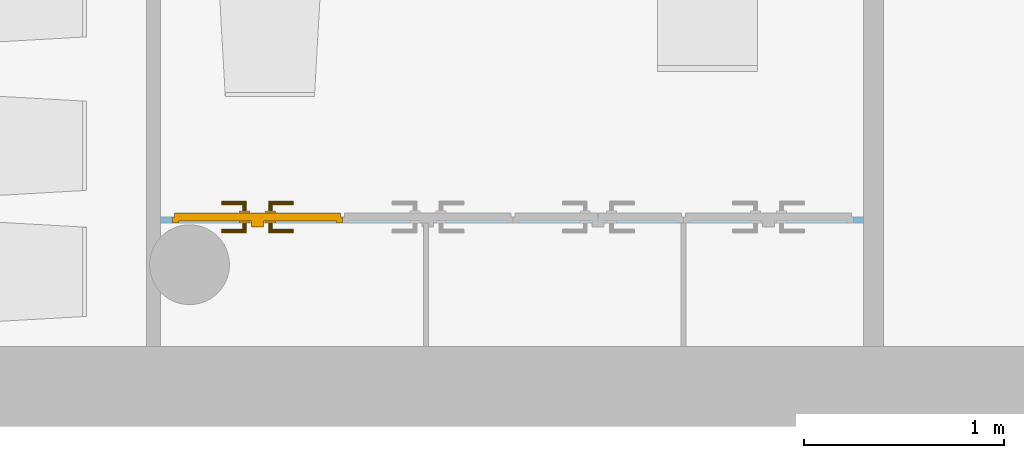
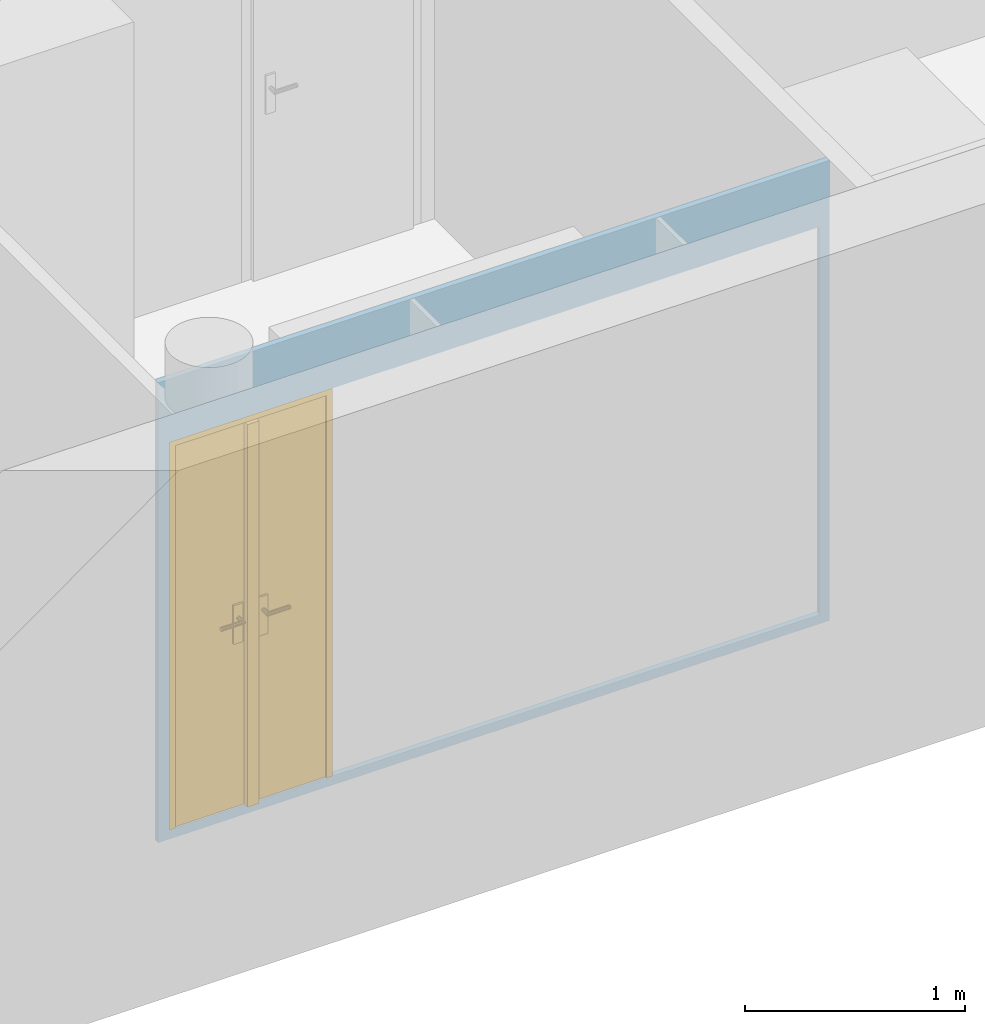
"""IFC4 building model written with IfcOpenShell, lengths in metres."""

from ifc_helpers import new_model, entity, si_unit, converted_unit, derived_unit, frame, frame_2d, origin, origin_with_axes, place, context, subcontext, project, spatial, polyline, rectangle, outline, extrude, faceted_brep, source, transform, mapped, material, layer, layer_set, layer_usage, element, fill, save


model = new_model("IFC4")

# Units and contexts
model_context = context("Model", 3, precision=1e-05, world=origin())
body_context = subcontext(model_context, "Body", "Model", "MODEL_VIEW")
ifc_project = project(units=[si_unit("LENGTHUNIT", "METRE"), si_unit("AREAUNIT", "SQUARE_METRE"), si_unit("VOLUMEUNIT", "CUBIC_METRE"), si_unit("MASSUNIT", "GRAM", prefix="KILO"), converted_unit("PLANEANGLEUNIT", "DEGREE", entity("IfcPlaneAngleMeasure", 0.0174532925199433), si_unit("PLANEANGLEUNIT", "RADIAN"), dimensions=[0, 0, 0, 0, 0, 0, 0]), derived_unit("THERMALTRANSMITTANCEUNIT", [(si_unit("POWERUNIT", "WATT"), 1), (si_unit("THERMODYNAMICTEMPERATUREUNIT", "KELVIN"), -1), (si_unit("LENGTHUNIT", "METRE"), -2)]), derived_unit("VOLUMETRICFLOWRATEUNIT", [(si_unit("LENGTHUNIT", "METRE"), 3), (converted_unit("TIMEUNIT", "hour", entity("IfcTimeMeasure", 3600.0), si_unit("TIMEUNIT", "SECOND"), dimensions=[0, 0, 1, 0, 0, 0, 0]), -1), (si_unit("LENGTHUNIT", "METRE"), -1)])], contexts=[model_context])

# Building, storeys
building_placement = place(None, origin())
building = spatial("IfcBuilding", under=ifc_project, at=building_placement, Name="HABITATGE PLURIFAMILIAR", CompositionType="ELEMENT")
storey_1_placement = place(building_placement, frame((0.0, 0.0, 3.35)))
storey_1 = spatial("IfcBuildingStorey", under=building, at=storey_1_placement, Name="PLANTA  ALTELL", CompositionType="ELEMENT", Elevation=3.35)
storey_2_placement = place(storey_1_placement, origin())
storey_2 = spatial("IfcBuildingStorey", under=storey_1, at=storey_2_placement, Name="NOU", CompositionType="PARTIAL")

# Wall, openings, door
ifc_material = material()
ifc_layer = layer(ifc_material, 0.03)
ifc_layer_set = layer_set([ifc_layer])
ifc_layer_usage = layer_usage(ifc_layer_set, "AXIS2", "POSITIVE", 0.0)
wall_placement = place(storey_2_placement, frame((409.212081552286, 13.8895914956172, -0.05), z_axis=(0.0, 0.0, 1.0), x_axis=(-1.0, 0.0, 0.0)))
wall = element("IfcWall", 1, at=wall_placement, inside=storey_2, material=ifc_layer_usage, Name="Evans PA", context=body_context, shape_type="SweptSolid", body=[
    extrude(rectangle(XDim=3.51996309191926, YDim=0.03, at=frame_2d((1.75998154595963, 0.015), x_axis=(1.0, 0.0))), origin_with_axes(), (0.0, 0.0, 1.0), 2.55),
])
opening_1_placement = place(wall_placement, frame((2.60764991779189, 0.0, 0.05), z_axis=(0.0, 1.0, 0.0), x_axis=(0.0, 0.0, 1.0)))
opening_1 = element("IfcOpeningElement", 2, at=opening_1_placement, cuts=wall, Name="Vano de puerta PA", ObjectType="Opening", context=body_context, shape_type="SweptSolid", body=[
    extrude(outline(polyline([(2.15, 0.852499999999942), (2.15, 0.0), (0.0, 0.0), (0.0, 0.852499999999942), (2.15, 0.852499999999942)])), origin_with_axes(), (0.0, 0.0, 1.0), 0.03),
])
opening_2_placement = place(wall_placement, frame((0.900149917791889, 0.0, 0.05), z_axis=(0.0, 1.0, 0.0), x_axis=(0.0, 0.0, 1.0)))
element("IfcOpeningElement", 3, at=opening_2_placement, cuts=wall, Name="Vano de puerta PA", ObjectType="Opening", context=body_context, shape_type="SweptSolid", body=[
    extrude(outline(polyline([(2.15, 0.854999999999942), (2.15, 0.0), (0.0, 0.0), (0.0, 0.854999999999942), (2.15, 0.854999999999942)])), origin_with_axes(), (0.0, 0.0, 1.0), 0.03),
])
opening_3_placement = place(wall_placement, frame((1.75514991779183, 0.0, 0.05), z_axis=(0.0, 1.0, 0.0), x_axis=(0.0, 0.0, 1.0)))
element("IfcOpeningElement", 4, at=opening_3_placement, cuts=wall, Name="Vano de puerta PA", ObjectType="Opening", context=body_context, shape_type="SweptSolid", body=[
    extrude(outline(polyline([(2.15, 0.8525), (2.15, 0.0), (0.0, 0.0), (0.0, 0.8525), (2.15, 0.8525)])), origin_with_axes(), (0.0, 0.0, 1.0), 0.03),
])
opening_4_placement = place(wall_placement, frame((0.900149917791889, 0.03, 0.05), z_axis=(0.0, -1.0, 0.0), x_axis=(0.0, 0.0, 1.0)))
element("IfcOpeningElement", 5, at=opening_4_placement, cuts=wall, Name="Vano de puerta PA", ObjectType="Opening", context=body_context, shape_type="SweptSolid", body=[
    extrude(outline(polyline([(2.15, 0.85), (2.15, 0.0), (0.0, 0.0), (0.0, 0.85), (2.15, 0.85)])), origin_with_axes(), (0.0, 0.0, 1.0), 0.03),
])
shared_shape = source(origin_with_axes(), body_context, "Body", "Brep", [
    faceted_brep([(0.852499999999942, 0.03, 2.15), (0.822499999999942, 0.03, 2.15), (0.822499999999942, 0.03, 0.0), (0.852499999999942, 0.03, 0.0), (0.852499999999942, 0.0, 0.0), (0.822499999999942, 0.0, 0.0), (0.822499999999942, 0.0, 2.15), (0.852499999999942, 0.0, 2.15)], [[[0, 1, 2, 3]], [[4, 5, 6, 7]], [[3, 4, 7, 0]], [[2, 5, 4, 3]], [[1, 6, 5, 2]], [[0, 7, 6, 1]]], orient=[[False], [False], [False], [False], [False], [False]]),
    faceted_brep([(0.03, 0.03, 2.15), (0.0, 0.03, 2.15), (0.0, 0.03, 0.0), (0.03, 0.03, 0.0), (0.03, 0.0, 0.0), (0.0, 0.0, 0.0), (0.0, 0.0, 2.15), (0.03, 0.0, 2.15)], [[[0, 1, 2, 3]], [[4, 5, 6, 7]], [[3, 4, 7, 0]], [[2, 5, 4, 3]], [[1, 6, 5, 2]], [[0, 7, 6, 1]]], orient=[[False], [False], [False], [False], [False], [False]]),
    faceted_brep([(0.822499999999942, 0.03, 2.15), (0.03, 0.03, 2.15), (0.03, 0.03, 2.12), (0.822499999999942, 0.03, 2.12), (0.822499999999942, 0.0, 2.12), (0.03, 0.0, 2.12), (0.03, 0.0, 2.15), (0.822499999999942, 0.0, 2.15)], [[[0, 1, 2, 3]], [[4, 5, 6, 7]], [[3, 4, 7, 0]], [[2, 5, 4, 3]], [[1, 6, 5, 2]], [[0, 7, 6, 1]]], orient=[[False], [False], [False], [False], [False], [False]]),
    faceted_brep([(0.842499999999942, 0.05, 2.14), (0.42675, 0.05, 2.14), (0.42675, 0.05, 0.0), (0.842499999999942, 0.05, 0.0), (0.842499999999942, 0.01, 0.0), (0.42675, 0.01, 0.0), (0.42675, 0.01, 2.14), (0.842499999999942, 0.01, 2.14)], [[[0, 1, 2, 3]], [[4, 5, 6, 7]], [[3, 4, 7, 0]], [[2, 5, 4, 3]], [[1, 6, 5, 2]], [[0, 7, 6, 1]]], orient=[[False], [False], [False], [False], [False], [False]]),
    faceted_brep([(0.45675, 0.01, 2.12), (0.39675, 0.01, 2.12), (0.39675, 0.01, 0.0), (0.45675, 0.01, 0.0), (0.45675, -0.02, 0.0), (0.39675, -0.02, 0.0), (0.39675, -0.02, 2.12), (0.45675, -0.02, 2.12)], [[[0, 1, 2, 3]], [[4, 5, 6, 7]], [[3, 4, 7, 0]], [[2, 5, 4, 3]], [[1, 6, 5, 2]], [[0, 7, 6, 1]]], orient=[[False], [False], [False], [False], [False], [False]]),
    faceted_brep([(0.51675, 0.01, 1.125), (0.46675, 0.01, 1.125), (0.46675, 0.01, 0.91), (0.51675, 0.01, 0.91), (0.51675, 0.0, 0.91), (0.46675, 0.0, 0.91), (0.46675, 0.0, 1.125), (0.51675, 0.0, 1.125)], [[[0, 1, 2, 3]], [[4, 5, 6, 7]], [[3, 4, 7, 0]], [[2, 5, 4, 3]], [[1, 6, 5, 2]], [[0, 7, 6, 1]]], orient=[[False], [False], [False], [False], [False], [False]]),
    faceted_brep([(0.49175, 0.0, 1.06), (0.48675, 0.0, 1.05866025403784), (0.483089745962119, 0.0, 1.055), (0.48175, 0.0, 1.05), (0.483089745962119, 0.0, 1.045), (0.48675, 0.0, 1.04133974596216), (0.49175, 0.0, 1.04), (0.49675, 0.0, 1.04133974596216), (0.500410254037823, 0.0, 1.045), (0.50175, 0.0, 1.05), (0.500410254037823, 0.0, 1.055), (0.49675, 0.0, 1.05866025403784), (0.49175, -0.04, 1.06), (0.48675, -0.045, 1.05866025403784), (0.483089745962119, -0.0486602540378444, 1.055), (0.48175, -0.05, 1.05), (0.483089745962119, -0.0486602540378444, 1.045), (0.48675, -0.045, 1.04133974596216), (0.49175, -0.04, 1.04), (0.49675, -0.035, 1.04133974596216), (0.500410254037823, -0.0313397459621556, 1.045), (0.50175, -0.03, 1.05), (0.500410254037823, -0.0313397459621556, 1.055), (0.49675, -0.035, 1.05866025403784), (0.60675, -0.04, 1.06), (0.60675, -0.035, 1.05866025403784), (0.60675, -0.0313397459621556, 1.055), (0.60675, -0.03, 1.05), (0.60675, -0.0313397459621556, 1.045), (0.60675, -0.035, 1.04133974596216), (0.60675, -0.04, 1.04), (0.60675, -0.045, 1.04133974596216), (0.60675, -0.0486602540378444, 1.045), (0.60675, -0.05, 1.05), (0.60675, -0.0486602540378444, 1.055), (0.60675, -0.045, 1.05866025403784)], [[[0, 1, 2, 3, 4, 5, 6, 7, 8, 9, 10, 11]], [[0, 12, 13, 1]], [[1, 13, 14, 2]], [[2, 14, 15, 3]], [[3, 15, 16, 4]], [[4, 16, 17, 5]], [[5, 17, 18, 6]], [[6, 18, 19, 7]], [[7, 19, 20, 8]], [[8, 20, 21, 9]], [[9, 21, 22, 10]], [[10, 22, 23, 11]], [[11, 23, 12, 0]], [[24, 25, 26, 27, 28, 29, 30, 31, 32, 33, 34, 35]], [[12, 24, 35, 13]], [[13, 35, 34, 14]], [[14, 34, 33, 15]], [[15, 33, 32, 16]], [[16, 32, 31, 17]], [[17, 31, 30, 18]], [[18, 30, 29, 19]], [[19, 29, 28, 20]], [[20, 28, 27, 21]], [[21, 27, 26, 22]], [[22, 26, 25, 23]], [[23, 25, 24, 12]]], orient=[[False], [False], [False], [False], [False], [False], [False], [False], [False], [False], [False], [False], [False], [False], [False], [False], [False], [False], [False], [False], [False], [False], [False], [False], [False], [False]]),
    faceted_brep([(0.51675, 0.05, 1.125), (0.51675, 0.05, 0.91), (0.46675, 0.05, 0.91), (0.46675, 0.05, 1.125), (0.51675, 0.06, 0.91), (0.51675, 0.06, 1.125), (0.46675, 0.06, 1.125), (0.46675, 0.06, 0.91)], [[[0, 1, 2, 3]], [[4, 5, 6, 7]], [[1, 0, 5, 4]], [[2, 1, 4, 7]], [[3, 2, 7, 6]], [[0, 3, 6, 5]]], orient=[[False], [False], [False], [False], [False], [False]]),
    faceted_brep([(0.49175, 0.06, 1.06), (0.49675, 0.06, 1.05866025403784), (0.500410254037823, 0.06, 1.055), (0.50175, 0.06, 1.05), (0.500410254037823, 0.06, 1.045), (0.49675, 0.06, 1.04133974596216), (0.49175, 0.06, 1.04), (0.48675, 0.06, 1.04133974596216), (0.483089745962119, 0.06, 1.045), (0.48175, 0.06, 1.05), (0.483089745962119, 0.06, 1.055), (0.48675, 0.06, 1.05866025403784), (0.48675, 0.105, 1.05866025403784), (0.49175, 0.1, 1.06), (0.483089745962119, 0.108660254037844, 1.055), (0.48175, 0.11, 1.05), (0.483089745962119, 0.108660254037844, 1.045), (0.48675, 0.105, 1.04133974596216), (0.49175, 0.1, 1.04), (0.49675, 0.095, 1.04133974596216), (0.500410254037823, 0.0913397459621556, 1.045), (0.50175, 0.09, 1.05), (0.500410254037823, 0.0913397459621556, 1.055), (0.49675, 0.095, 1.05866025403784), (0.60675, 0.1, 1.06), (0.60675, 0.105, 1.05866025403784), (0.60675, 0.108660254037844, 1.055), (0.60675, 0.11, 1.05), (0.60675, 0.108660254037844, 1.045), (0.60675, 0.105, 1.04133974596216), (0.60675, 0.1, 1.04), (0.60675, 0.095, 1.04133974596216), (0.60675, 0.0913397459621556, 1.045), (0.60675, 0.09, 1.05), (0.60675, 0.0913397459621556, 1.055), (0.60675, 0.095, 1.05866025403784)], [[[0, 1, 2, 3, 4, 5, 6, 7, 8, 9, 10, 11]], [[0, 11, 12, 13]], [[11, 10, 14, 12]], [[10, 9, 15, 14]], [[9, 8, 16, 15]], [[8, 7, 17, 16]], [[7, 6, 18, 17]], [[6, 5, 19, 18]], [[5, 4, 20, 19]], [[4, 3, 21, 20]], [[3, 2, 22, 21]], [[2, 1, 23, 22]], [[1, 0, 13, 23]], [[24, 25, 26, 27, 28, 29, 30, 31, 32, 33, 34, 35]], [[13, 12, 25, 24]], [[12, 14, 26, 25]], [[14, 15, 27, 26]], [[15, 16, 28, 27]], [[16, 17, 29, 28]], [[17, 18, 30, 29]], [[18, 19, 31, 30]], [[19, 20, 32, 31]], [[20, 21, 33, 32]], [[21, 22, 34, 33]], [[22, 23, 35, 34]], [[23, 13, 24, 35]]], orient=[[False], [False], [False], [False], [False], [False], [False], [False], [False], [False], [False], [False], [False], [False], [False], [False], [False], [False], [False], [False], [False], [False], [False], [False], [False], [False]]),
    faceted_brep([(0.42575, 0.05, 2.14), (0.01, 0.05, 2.14), (0.01, 0.05, 0.0), (0.42575, 0.05, 0.0), (0.42575, 0.01, 0.0), (0.01, 0.01, 0.0), (0.01, 0.01, 2.14), (0.42575, 0.01, 2.14)], [[[0, 1, 2, 3]], [[4, 5, 6, 7]], [[3, 4, 7, 0]], [[2, 5, 4, 3]], [[1, 6, 5, 2]], [[0, 7, 6, 1]]], orient=[[False], [False], [False], [False], [False], [False]]),
    faceted_brep([(0.38575, 0.01, 1.125), (0.33575, 0.01, 1.125), (0.33575, 0.01, 0.91), (0.38575, 0.01, 0.91), (0.38575, 0.0, 0.91), (0.33575, 0.0, 0.91), (0.33575, 0.0, 1.125), (0.38575, 0.0, 1.125)], [[[0, 1, 2, 3]], [[4, 5, 6, 7]], [[3, 4, 7, 0]], [[2, 5, 4, 3]], [[1, 6, 5, 2]], [[0, 7, 6, 1]]], orient=[[False], [False], [False], [False], [False], [False]]),
    faceted_brep([(0.36075, 0.0, 1.06), (0.35575, 0.0, 1.05866025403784), (0.352089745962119, 0.0, 1.055), (0.35075, 0.0, 1.05), (0.352089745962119, 0.0, 1.045), (0.35575, 0.0, 1.04133974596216), (0.36075, 0.0, 1.04), (0.36575, 0.0, 1.04133974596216), (0.369410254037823, 0.0, 1.045), (0.37075, 0.0, 1.05), (0.369410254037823, 0.0, 1.055), (0.36575, 0.0, 1.05866025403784), (0.36575, -0.045, 1.05866025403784), (0.36075, -0.04, 1.06), (0.369410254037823, -0.0486602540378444, 1.055), (0.37075, -0.05, 1.05), (0.369410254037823, -0.0486602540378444, 1.045), (0.36575, -0.045, 1.04133974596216), (0.36075, -0.04, 1.04), (0.35575, -0.035, 1.04133974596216), (0.352089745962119, -0.0313397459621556, 1.045), (0.35075, -0.03, 1.05), (0.352089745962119, -0.0313397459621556, 1.055), (0.35575, -0.035, 1.05866025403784), (0.24575, -0.04, 1.06), (0.24575, -0.045, 1.05866025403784), (0.24575, -0.0486602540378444, 1.055), (0.24575, -0.05, 1.05), (0.24575, -0.0486602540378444, 1.045), (0.24575, -0.045, 1.04133974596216), (0.24575, -0.04, 1.04), (0.24575, -0.035, 1.04133974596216), (0.24575, -0.0313397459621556, 1.045), (0.24575, -0.03, 1.05), (0.24575, -0.0313397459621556, 1.055), (0.24575, -0.035, 1.05866025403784)], [[[0, 1, 2, 3, 4, 5, 6, 7, 8, 9, 10, 11]], [[0, 11, 12, 13]], [[11, 10, 14, 12]], [[10, 9, 15, 14]], [[9, 8, 16, 15]], [[8, 7, 17, 16]], [[7, 6, 18, 17]], [[6, 5, 19, 18]], [[5, 4, 20, 19]], [[4, 3, 21, 20]], [[3, 2, 22, 21]], [[2, 1, 23, 22]], [[1, 0, 13, 23]], [[24, 25, 26, 27, 28, 29, 30, 31, 32, 33, 34, 35]], [[13, 12, 25, 24]], [[12, 14, 26, 25]], [[14, 15, 27, 26]], [[15, 16, 28, 27]], [[16, 17, 29, 28]], [[17, 18, 30, 29]], [[18, 19, 31, 30]], [[19, 20, 32, 31]], [[20, 21, 33, 32]], [[21, 22, 34, 33]], [[22, 23, 35, 34]], [[23, 13, 24, 35]]], orient=[[False], [False], [False], [False], [False], [False], [False], [False], [False], [False], [False], [False], [False], [False], [False], [False], [False], [False], [False], [False], [False], [False], [False], [False], [False], [False]]),
    faceted_brep([(0.38575, 0.05, 1.125), (0.38575, 0.05, 0.91), (0.33575, 0.05, 0.91), (0.33575, 0.05, 1.125), (0.38575, 0.06, 0.91), (0.38575, 0.06, 1.125), (0.33575, 0.06, 1.125), (0.33575, 0.06, 0.91)], [[[0, 1, 2, 3]], [[4, 5, 6, 7]], [[1, 0, 5, 4]], [[2, 1, 4, 7]], [[3, 2, 7, 6]], [[0, 3, 6, 5]]], orient=[[False], [False], [False], [False], [False], [False]]),
    faceted_brep([(0.36075, 0.06, 1.06), (0.36575, 0.06, 1.05866025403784), (0.369410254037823, 0.06, 1.055), (0.37075, 0.06, 1.05), (0.369410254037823, 0.06, 1.045), (0.36575, 0.06, 1.04133974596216), (0.36075, 0.06, 1.04), (0.35575, 0.06, 1.04133974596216), (0.352089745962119, 0.06, 1.045), (0.35075, 0.06, 1.05), (0.352089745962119, 0.06, 1.055), (0.35575, 0.06, 1.05866025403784), (0.36075, 0.1, 1.06), (0.36575, 0.105, 1.05866025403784), (0.369410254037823, 0.108660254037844, 1.055), (0.37075, 0.11, 1.05), (0.369410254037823, 0.108660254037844, 1.045), (0.36575, 0.105, 1.04133974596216), (0.36075, 0.1, 1.04), (0.35575, 0.095, 1.04133974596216), (0.352089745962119, 0.0913397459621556, 1.045), (0.35075, 0.09, 1.05), (0.352089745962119, 0.0913397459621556, 1.055), (0.35575, 0.095, 1.05866025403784), (0.24575, 0.1, 1.06), (0.24575, 0.095, 1.05866025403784), (0.24575, 0.0913397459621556, 1.055), (0.24575, 0.09, 1.05), (0.24575, 0.0913397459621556, 1.045), (0.24575, 0.095, 1.04133974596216), (0.24575, 0.1, 1.04), (0.24575, 0.105, 1.04133974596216), (0.24575, 0.108660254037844, 1.045), (0.24575, 0.11, 1.05), (0.24575, 0.108660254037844, 1.055), (0.24575, 0.105, 1.05866025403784)], [[[0, 1, 2, 3, 4, 5, 6, 7, 8, 9, 10, 11]], [[0, 12, 13, 1]], [[1, 13, 14, 2]], [[2, 14, 15, 3]], [[3, 15, 16, 4]], [[4, 16, 17, 5]], [[5, 17, 18, 6]], [[6, 18, 19, 7]], [[7, 19, 20, 8]], [[8, 20, 21, 9]], [[9, 21, 22, 10]], [[10, 22, 23, 11]], [[11, 23, 12, 0]], [[24, 25, 26, 27, 28, 29, 30, 31, 32, 33, 34, 35]], [[12, 24, 35, 13]], [[13, 35, 34, 14]], [[14, 34, 33, 15]], [[15, 33, 32, 16]], [[16, 32, 31, 17]], [[17, 31, 30, 18]], [[18, 30, 29, 19]], [[19, 29, 28, 20]], [[20, 28, 27, 21]], [[21, 27, 26, 22]], [[22, 26, 25, 23]], [[23, 25, 24, 12]]], orient=[[False], [False], [False], [False], [False], [False], [False], [False], [False], [False], [False], [False], [False], [False], [False], [False], [False], [False], [False], [False], [False], [False], [False], [False], [False], [False]]),
])
door_placement = place(opening_1_placement, frame((0.0, 0.852499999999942, 0.03), z_axis=(1.0, 0.0, 0.0), x_axis=(0.0, -1.0, 0.0)))
door = element("IfcDoor", 6, at=door_placement, inside=storey_2, Name="Porta PA", OperationType="USERDEFINED", OverallHeight=2.15, OverallWidth=0.8525, PredefinedType="DOOR", context=body_context, shape_type="MappedRepresentation", body=[
    mapped(shared_shape, transform((0.0, 0.0, 0.0), x_axis=(1.0, 0.0, 0.0), y_axis=(0.0, 1.0, 0.0), z_axis=(0.0, 0.0, 1.0), scale=1.0)),
])
fill(opening_1, door)

save(model, "model.ifc")
